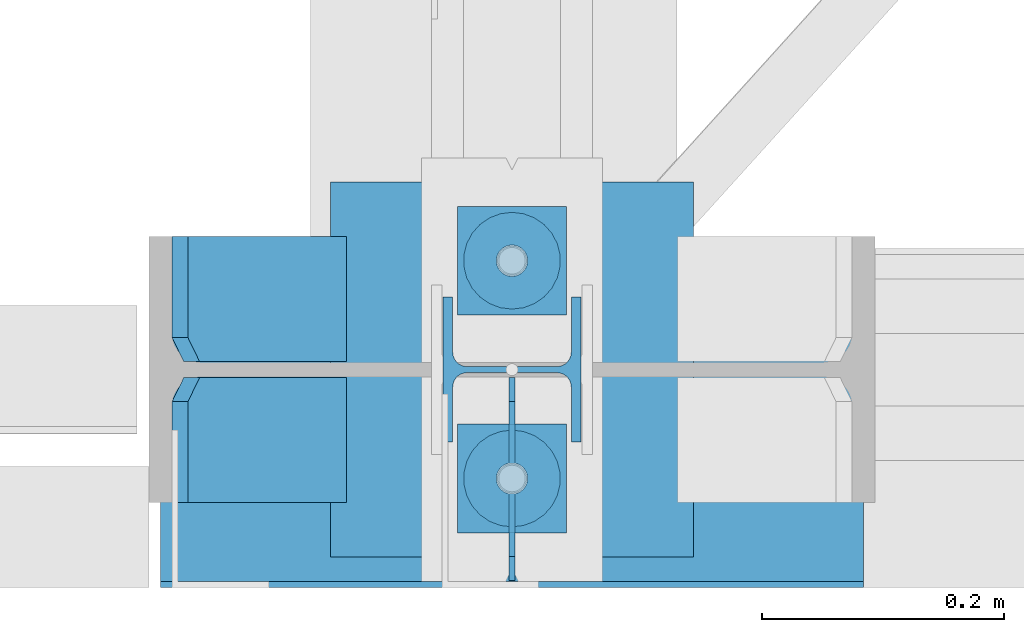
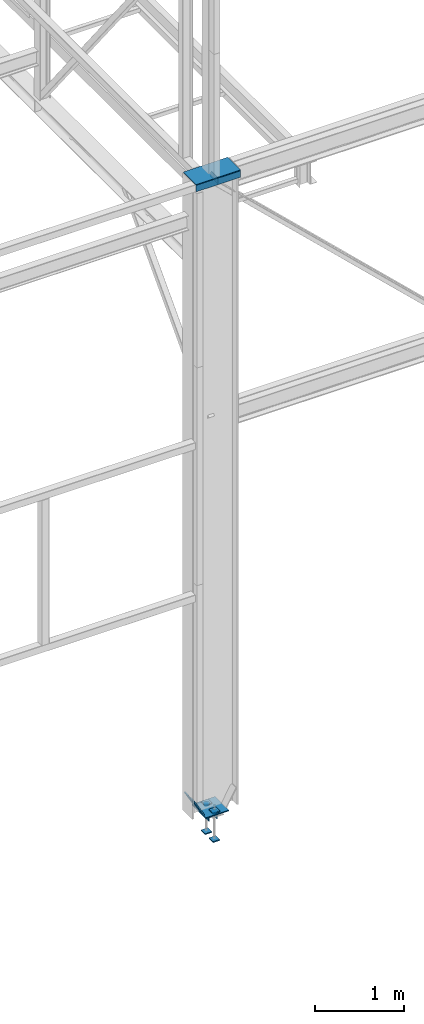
# One storey, part 70 of 123: 11 discrete accessories, 3 mechanical fasteners, 2 elements without a shape of their own.
"""IFC2X3 building model written with IfcOpenShell, lengths in millimetres."""

from ifc_helpers import new_model, si_unit, frame, origin_with_axes, origin_2d_with_axis, place, context, subcontext, project, spatial, polyline, rectangle, circle, i_section, outline, extrude, boolean, source, transform, mapped, material, type_object, element, aggregate, save


model = new_model("IFC2X3")

# Units and contexts
model_context = context("Model", 3, precision=1e-05, world=origin_with_axes())
body_context = subcontext(model_context, "Body", "Model", "MODEL_VIEW")
ifc_project = project(units=[si_unit("LENGTHUNIT", "METRE", prefix="MILLI"), si_unit("AREAUNIT", "SQUARE_METRE"), si_unit("VOLUMEUNIT", "CUBIC_METRE"), si_unit("MASSUNIT", "GRAM", prefix="KILO"), si_unit("TIMEUNIT", "SECOND"), si_unit("PLANEANGLEUNIT", "RADIAN"), si_unit("SOLIDANGLEUNIT", "STERADIAN"), si_unit("THERMODYNAMICTEMPERATUREUNIT", "DEGREE_CELSIUS"), si_unit("LUMINOUSINTENSITYUNIT", "LUMEN")], contexts=[model_context])

# Site, building, storey
site_placement = place(None, origin_with_axes())
site = spatial("IfcSite", under=ifc_project, at=site_placement, Name="Undefined", CompositionType="ELEMENT")
building_placement = place(site_placement, origin_with_axes())
building = spatial("IfcBuilding", under=site, at=building_placement, Name="Undefined", CompositionType="ELEMENT")
storey_placement = place(building_placement, origin_with_axes())
storey = spatial("IfcBuildingStorey", under=building, at=storey_placement, Name="Undefined", CompositionType="ELEMENT", Elevation=0.0)

# Assembly, discrete accessory
assembly_1_placement = place(storey_placement, origin_with_axes())
assembly_1 = element("IfcElementAssembly", 1, at=assembly_1_placement, inside=storey, Name="Steel Assembly", AssemblyPlace="NOTDEFINED", PredefinedType="RIGID_FRAME")
ifc_material_1 = material(Name="STEEL/S235-E24")
discrete_accessory_type_1 = type_object("IfcDiscreteAccessoryType", Name="RAIDISSEUR")
discrete_accessory_1_placement = place(assembly_1_placement, frame((12680.0, -6.5, 8450.0), z_axis=(-1.0, 0.0, 0.0), x_axis=(0.0, -1.0, 0.0)))
discrete_accessory_1 = element("IfcDiscreteAccessory", 2, at=discrete_accessory_1_placement, type_object=discrete_accessory_type_1, material=ifc_material_1, Name="RAIDISSEUR", ObjectType="PL5*90", context=body_context, shape_type="SweptSolid", body=[
    extrude(outline(polyline([(0.0, 0.0), (168.0, 0.0), (168.0, 70.0), (148.0, 90.0), (20.000000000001, 90.0), (0.0, 70.0), (0.0, 0.0)])), frame((0.0, 0.0, -2.5), z_axis=(0.0, 0.0, 1.0), x_axis=(1.0, 0.0, 0.0)), (0.0, 0.0, 1.0), 5.0),
])

assembly_2_placement = place(storey_placement, origin_with_axes())
assembly_2 = element("IfcElementAssembly", 3, at=assembly_2_placement, inside=storey, Name="Steel Assembly", AssemblyPlace="NOTDEFINED", PredefinedType="RIGID_FRAME")
ifc_material_2 = material(Name="STEEL/S275-E28")
discrete_accessory_type_2 = type_object("IfcDiscreteAccessoryType", Name="BECHE")
discrete_accessory_2_placement = place(assembly_2_placement, frame((12679.99999991, 0.0, -260.0), z_axis=(-1.0, 0.0, 0.0), x_axis=(0.0, 0.0, -1.0)))
discrete_accessory_2 = element("IfcDiscreteAccessory", 4, at=discrete_accessory_2_placement, type_object=discrete_accessory_type_2, material=ifc_material_2, Name="BECHE", ObjectType="HEA120", context=body_context, shape_type="SweptSolid", body=[
    extrude(i_section(OverallWidth=120.0, OverallDepth=114.0, WebThickness=5.0, FlangeThickness=8.0, FilletRadius=12.0, at=origin_2d_with_axis()), frame((120.0, 0.0, 0.0), z_axis=(-1.0, 0.0, 0.0), x_axis=(0.0, -1.0, 0.0)), (0.0, 0.0, 1.0), 120.0),
])

# Mechanical fastener
ifc_material_3 = material(Name="6.8")
discrete_accessory_type_3 = type_object("IfcDiscreteAccessoryType", Name="Bolt assembly")
shared_shape_1 = source(origin_with_axes(), body_context, "Body", "SweptSolid", [
    extrude(circle(Radius=40.0, at=origin_2d_with_axis()), frame((0.0, -15.0, 0.0), z_axis=(0.0, 1.0, 0.0), x_axis=(1.0, 0.0, 0.0)), (0.0, 0.0, 1.0), 15.1),
])
mechanical_fastener_1_placement = place(assembly_1_placement, frame((12680.0, -90.0028495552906, -250.0), z_axis=(-1.0, 0.0, 0.0), x_axis=(0.0, 1.0, 0.0)))
mechanical_fastener_1 = element("IfcMechanicalFastener", 5, at=mechanical_fastener_1_placement, type_object=discrete_accessory_type_3, material=ifc_material_3, Name="Bolt assembly", NominalDiameter=30.0, NominalLength=15.0, context=body_context, shape_type="MappedRepresentation", body=[
    mapped(shared_shape_1, transform((0.0, 0.0, 0.0))),
])

mechanical_fastener_2_placement = place(assembly_1_placement, frame((12680.0, 89.9971504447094, -250.0), z_axis=(1.0, 0.0, 0.0), x_axis=(0.0, -1.0, 0.0)))
mechanical_fastener_2 = element("IfcMechanicalFastener", 6, at=mechanical_fastener_2_placement, type_object=discrete_accessory_type_3, material=ifc_material_3, Name="Bolt assembly", NominalDiameter=30.0, NominalLength=15.0, context=body_context, shape_type="MappedRepresentation", body=[
    mapped(shared_shape_1, transform((0.0, 0.0, 0.0))),
])

# Discrete accessory
discrete_accessory_type_4 = type_object("IfcDiscreteAccessoryType", Name="PLATINE")
discrete_accessory_3_placement = place(assembly_1_placement, frame((12680.0000000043, -177.5, 8540.00000000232), z_axis=(0.0, -1.0, 0.0), x_axis=(0.0, 0.0, -1.0)))
discrete_accessory_3 = element("IfcDiscreteAccessory", 7, at=discrete_accessory_3_placement, type_object=discrete_accessory_type_4, material=ifc_material_1, Name="PLATINE", ObjectType="PL5*581", context=body_context, shape_type="SweptSolid", body=[
    extrude(outline(polyline([(89.9999999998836, -290.5), (0.0, -290.5), (0.0, 290.5), (89.9999999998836, 290.5), (89.9999999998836, -290.5)])), frame((0.0, 0.0, -2.5), z_axis=(0.0, 0.0, 1.0), x_axis=(1.0, 0.0, 0.0)), (0.0, 0.0, 1.0), 5.0),
])

discrete_accessory_4_placement = place(assembly_1_placement, frame((12389.5, -35.0, 8545.0), z_axis=(0.0, 0.0, 1.0), x_axis=(1.0, 0.0, 0.0)))
discrete_accessory_4 = element("IfcDiscreteAccessory", 8, at=discrete_accessory_4_placement, type_object=discrete_accessory_type_4, material=ifc_material_1, Name="PLATINE", ObjectType="PL10*290", context=body_context, shape_type="SweptSolid", body=[
    extrude(outline(polyline([(0.0, -145.0), (0.0, 145.0), (581.0, 145.0), (581.0, -145.0), (0.0, -145.0)])), frame((0.0, 0.0, -5.0), z_axis=(0.0, 0.0, 1.0), x_axis=(1.0, 0.0, 0.0)), (0.0, 0.0, 1.0), 10.0),
])

discrete_accessory_5_placement = place(assembly_1_placement, frame((12405.550913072, 58.25, 3.65178558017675), z_axis=(0.0, 1.0, 0.0), x_axis=(0.486904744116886, 0.0, -0.873455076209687)))
discrete_accessory_5 = element("IfcDiscreteAccessory", 9, at=discrete_accessory_5_placement, type_object=discrete_accessory_type_4, material=ifc_material_1, Name="PLATINE", ObjectType="PL15*103.5", context=body_context, shape_type="CSG", body=[
    boolean("DIFFERENCE", extrude(rectangle(XDim=15.0, YDim=103.5, at=origin_2d_with_axis()), frame((269.046464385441, -1.49350789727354e-14, 0.0), z_axis=(-1.0, 0.0, 0.0), x_axis=(0.0, -1.0, 0.0)), (0.0, 0.0, 1.0), 269.0), extrude(outline(polyline([(0.0, 0.0), (19.999999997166, 0.0), (20.0000000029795, 20.0), (0.0, 0.0)])), frame((20.0000000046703, -10.4999999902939, -51.75), z_axis=(0.0, 1.0, 0.0), x_axis=(-1.0, 0.0, 0.0)), (0.0, 0.0, 1.0), 21.0)),
])

discrete_accessory_6_placement = place(assembly_1_placement, frame((12405.550913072, -58.25, 3.65178558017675), z_axis=(0.0, 1.0, 0.0), x_axis=(0.486904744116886, 0.0, -0.873455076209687)))
discrete_accessory_6 = element("IfcDiscreteAccessory", 10, at=discrete_accessory_6_placement, type_object=discrete_accessory_type_4, material=ifc_material_1, Name="PLATINE", ObjectType="PL15*103.5", context=body_context, shape_type="CSG", body=[
    boolean("DIFFERENCE", extrude(rectangle(XDim=15.0, YDim=103.5, at=origin_2d_with_axis()), frame((269.046464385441, -1.49350789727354e-14, 0.0), z_axis=(-1.0, 0.0, 0.0), x_axis=(0.0, -1.0, 0.0)), (0.0, 0.0, 1.0), 269.0), extrude(outline(polyline([(0.0, 0.0), (28.2842712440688, -2.00088834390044e-11), (14.1421356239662, 14.1421356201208), (0.0, 0.0)])), frame((20.0000000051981, -10.4999999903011, 51.7500000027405), z_axis=(0.0, 1.0, 0.0), x_axis=(-0.707106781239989, -7.80642606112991e-10, -0.707106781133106)), (0.0, 0.0, 1.0), 21.0)),
])

discrete_accessory_7_placement = place(assembly_1_placement, frame((12680.0, 154.997150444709, -242.5), z_axis=(0.0, 0.0, 1.0), x_axis=(0.0, -1.0, 0.0)))
discrete_accessory_7 = element("IfcDiscreteAccessory", 11, at=discrete_accessory_7_placement, type_object=discrete_accessory_type_4, material=ifc_material_1, Name="PLATINE", ObjectType="PL15*300", context=body_context, shape_type="SweptSolid", body=[
    extrude(outline(polyline([(310.0, -150.0), (0.0, -150.0), (0.0, 150.0), (310.0, 150.0), (310.0, -150.0)])), frame((0.0, 0.0, -7.5), z_axis=(0.0, 0.0, 1.0), x_axis=(1.0, 0.0, 0.0)), (0.0, 0.0, 1.0), 15.0),
])

aggregate(assembly_1, [discrete_accessory_1, discrete_accessory_3, discrete_accessory_4, mechanical_fastener_1, mechanical_fastener_2, discrete_accessory_5, discrete_accessory_6, discrete_accessory_7])

# Mechanical fastener
shared_shape_2 = source(origin_with_axes(), body_context, "Body", "SweptSolid", [
    extrude(circle(Radius=13.0, at=origin_2d_with_axis()), frame((0.0, 0.0, 0.0), z_axis=(0.0, 1.0, 0.0), x_axis=(1.0, 0.0, 0.0)), (0.0, 0.0, 1.0), 10.1),
])
mechanical_fastener_3_placement = place(assembly_2_placement, frame((12680.0, 7.34107743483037e-08, -250.0), z_axis=(0.0, -1.0, 0.0), x_axis=(-1.0, 0.0, 0.0)))
mechanical_fastener_3 = element("IfcMechanicalFastener", 12, at=mechanical_fastener_3_placement, type_object=discrete_accessory_type_3, material=ifc_material_3, Name="Bolt assembly", NominalDiameter=24.0, NominalLength=10.0, context=body_context, shape_type="MappedRepresentation", body=[
    mapped(shared_shape_2, transform((-4.00177668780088e-11, 0.0, -90.0))),
    mapped(shared_shape_2, transform((4.00177668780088e-11, 0.0, 90.0))),
])

# Discrete accessory
discrete_accessory_type_5 = type_object("IfcDiscreteAccessoryType", Name="PLAQUETTE")
discrete_accessory_8_placement = place(assembly_2_placement, frame((12725.0, -45.0028495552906, -227.5), z_axis=(0.0, 0.0, 1.0), x_axis=(-1.0, 0.0, 0.0)))
discrete_accessory_8 = element("IfcDiscreteAccessory", 13, at=discrete_accessory_8_placement, type_object=discrete_accessory_type_5, material=ifc_material_1, Name="PLAQUETTE", ObjectType="PL15*90", context=body_context, shape_type="SweptSolid", body=[
    extrude(outline(polyline([(0.0, 0.0), (90.0, 0.0), (90.0, 90.0), (0.0, 90.0), (0.0, 0.0)])), frame((0.0, 0.0, -7.5), z_axis=(0.0, 0.0, 1.0), x_axis=(1.0, 0.0, 0.0)), (0.0, 0.0, 1.0), 15.0),
])

discrete_accessory_9_placement = place(assembly_2_placement, frame((12725.0, 134.997150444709, -227.5), z_axis=(0.0, 0.0, 1.0), x_axis=(-1.0, 0.0, 0.0)))
discrete_accessory_9 = element("IfcDiscreteAccessory", 14, at=discrete_accessory_9_placement, type_object=discrete_accessory_type_5, material=ifc_material_1, Name="PLAQUETTE", ObjectType="PL15*90", context=body_context, shape_type="SweptSolid", body=[
    extrude(outline(polyline([(0.0, 0.0), (90.0, 0.0), (90.0, 90.0), (0.0, 90.0), (0.0, 0.0)])), frame((0.0, 0.0, -7.5), z_axis=(0.0, 0.0, 1.0), x_axis=(1.0, 0.0, 0.0)), (0.0, 0.0, 1.0), 15.0),
])

discrete_accessory_10_placement = place(assembly_2_placement, frame((12725.0, -45.0028495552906, -622.5), z_axis=(0.0, 0.0, 1.0), x_axis=(-1.0, 0.0, 0.0)))
discrete_accessory_10 = element("IfcDiscreteAccessory", 15, at=discrete_accessory_10_placement, type_object=discrete_accessory_type_5, material=ifc_material_1, Name="PLAQUETTE", ObjectType="PL15*90", context=body_context, shape_type="SweptSolid", body=[
    extrude(outline(polyline([(0.0, 0.0), (90.0, 0.0), (90.0, 90.0), (0.0, 90.0), (0.0, 0.0)])), frame((0.0, 0.0, -7.5), z_axis=(0.0, 0.0, 1.0), x_axis=(1.0, 0.0, 0.0)), (0.0, 0.0, 1.0), 15.0),
])

discrete_accessory_11_placement = place(assembly_2_placement, frame((12725.0, 134.997150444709, -622.5), z_axis=(0.0, 0.0, 1.0), x_axis=(-1.0, 0.0, 0.0)))
discrete_accessory_11 = element("IfcDiscreteAccessory", 16, at=discrete_accessory_11_placement, type_object=discrete_accessory_type_5, material=ifc_material_1, Name="PLAQUETTE", ObjectType="PL15*90", context=body_context, shape_type="SweptSolid", body=[
    extrude(outline(polyline([(0.0, 0.0), (90.0, 0.0), (90.0, 90.0), (0.0, 90.0), (0.0, 0.0)])), frame((0.0, 0.0, -7.5), z_axis=(0.0, 0.0, 1.0), x_axis=(1.0, 0.0, 0.0)), (0.0, 0.0, 1.0), 15.0),
])

aggregate(assembly_2, [discrete_accessory_2, mechanical_fastener_3, discrete_accessory_8, discrete_accessory_9, discrete_accessory_10, discrete_accessory_11])

save(model, "model.ifc")
